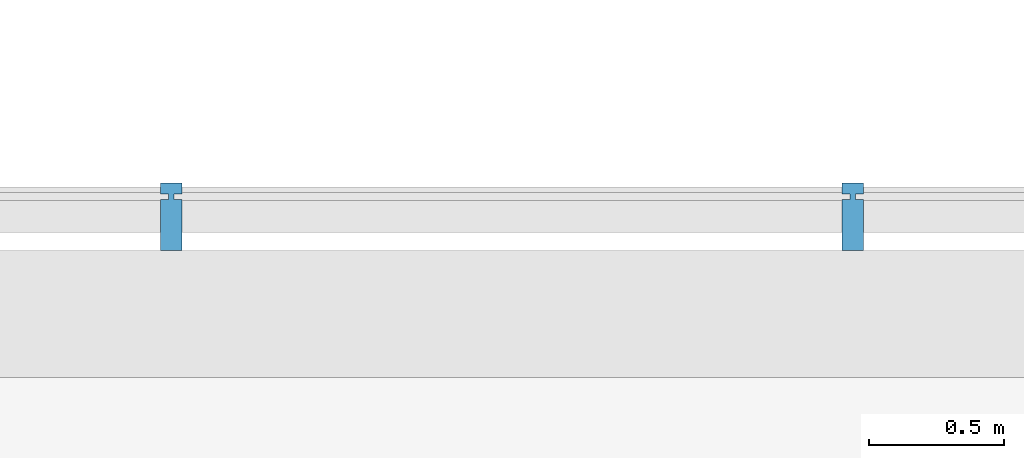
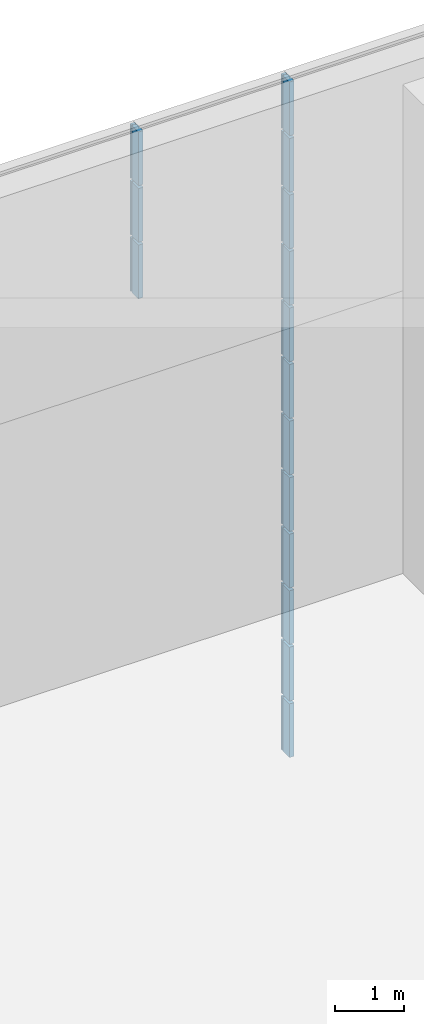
# One storey, part 100 of 105: 15 building element parts, 4 elements without a shape of their own.
"""IFC4 building model written with IfcOpenShell, lengths in millimetres."""

from ifc_helpers import new_model, entity, si_unit, converted_unit, derived_unit, direction, frame, origin_with_axes, place, context, subcontext, project, spatial, triangles, material, element, aggregate, save


model = new_model("IFC4")

# Units and contexts
model_context = context("Model", 3, precision=1e-05, world=origin_with_axes(), true_north=direction((0.0, 1.0)))
body_context = subcontext(model_context, "Body", "Model", "MODEL_VIEW")
ifc_project = project(units=[si_unit("LENGTHUNIT", "METRE", prefix="MILLI"), si_unit("AREAUNIT", "SQUARE_METRE"), si_unit("VOLUMEUNIT", "CUBIC_METRE"), converted_unit("PLANEANGLEUNIT", "DEGREE", entity("IfcLengthMeasure", 0.017453), si_unit("PLANEANGLEUNIT", "RADIAN"), dimensions=[0, 0, 0, 0, 0, 0, 0]), si_unit("SOLIDANGLEUNIT", "STERADIAN"), si_unit("MASSUNIT", "GRAM"), si_unit("TIMEUNIT", "SECOND"), si_unit("THERMODYNAMICTEMPERATUREUNIT", "DEGREE_CELSIUS"), si_unit("LUMINOUSINTENSITYUNIT", "LUMEN"), si_unit("POWERUNIT", "WATT"), derived_unit("THERMALTRANSMITTANCEUNIT", [(si_unit("POWERUNIT", "WATT"), 1), (si_unit("THERMODYNAMICTEMPERATUREUNIT", "KELVIN"), -1), (si_unit("AREAUNIT", "SQUARE_METRE"), -1)])], contexts=[model_context])

# Site, building, storey
site_placement = place(None, origin_with_axes())
site = spatial("IfcSite", under=ifc_project, at=site_placement, Name="Default Site", CompositionType="ELEMENT")
building_placement = place(site_placement, origin_with_axes())
building = spatial("IfcBuilding", under=site, at=building_placement, Name="Default Building", CompositionType="ELEMENT")
storey_placement = place(building_placement, origin_with_axes())
storey = spatial("IfcBuildingStorey", under=building, at=storey_placement, Name="OG - Story", CompositionType="ELEMENT", Elevation=0.0)

# Curtain wall, building element parts
curtain_wall_1_placement = place(storey_placement, origin_with_axes())
curtain_wall_1 = element("IfcCurtainWall", 1, at=curtain_wall_1_placement, inside=storey, Name="Fassade-004", PredefinedType="NOTDEFINED")
ifc_material = material(Name="Blech")
building_element_part_1_placement = place(curtain_wall_1_placement, frame((33014.549222, -4389.262838, 0.0), z_axis=(0.0, 0.0, 1.0), x_axis=(1.0, 0.0, 0.0)))
building_element_part_1 = element("IfcBuildingElementPart", 2, at=building_element_part_1_placement, material=ifc_material, Name="Blech", PredefinedType="NOTDEFINED", context=body_context, shape_type="Tessellation", body=[
    triangles([(44250.526, -9.999, 975.0), (44250.526, -199.999, 975.0), (44220.526, -9.999, 975.0), (44200.526, -9.999, 975.0), (44220.526, 10.0, 975.0), (44250.526, 50.0, 975.0), (44250.526, 10.0, 975.0), (44170.526, -199.999, 975.0), (44170.526, -9.999, 975.0), (44200.526, 10.0, 975.0), (44170.526, 10.0, 975.0), (44170.526, 50.0, 975.0), (44220.526, -9.999, 25.0), (44220.526, 10.0, 25.0), (44250.526, 10.0, 25.0), (44250.526, 50.0, 25.0), (44170.526, 50.0, 25.0), (44170.526, 10.0, 25.0), (44200.526, 10.0, 25.0), (44200.526, -9.999, 25.0), (44170.526, -9.999, 25.0), (44170.526, -199.999, 25.0), (44250.526, -199.999, 25.0), (44250.526, -9.999, 25.0)], [[1, 2, 3], [3, 2, 4], [3, 4, 5], [5, 4, 6], [5, 6, 7], [8, 9, 4], [8, 4, 2], [6, 4, 10], [6, 10, 11], [6, 11, 12], [3, 13, 14], [3, 14, 5], [5, 14, 15], [5, 15, 7], [15, 16, 6], [15, 6, 7], [12, 6, 16], [12, 16, 17], [18, 11, 12], [18, 12, 17], [11, 18, 19], [11, 19, 10], [4, 10, 19], [4, 19, 20], [9, 4, 20], [9, 20, 21], [9, 21, 22], [9, 22, 8], [2, 8, 22], [2, 22, 23], [1, 2, 23], [1, 23, 24], [1, 24, 13], [1, 13, 3], [15, 16, 14], [14, 16, 19], [14, 19, 13], [13, 19, 23], [13, 23, 24], [17, 18, 19], [17, 19, 16], [23, 19, 20], [23, 20, 21], [23, 21, 22]], closed=False),
])
building_element_part_2_placement = place(curtain_wall_1_placement, frame((33014.549222, -4389.262838, 0.0), z_axis=(0.0, 0.0, 1.0), x_axis=(1.0, 0.0, 0.0)))
building_element_part_2 = element("IfcBuildingElementPart", 3, at=building_element_part_2_placement, material=ifc_material, Name="Blech", PredefinedType="NOTDEFINED", context=body_context, shape_type="Tessellation", body=[
    triangles([(44250.526, -9.999, 1975.0), (44250.526, -199.999, 1975.0), (44220.526, -9.999, 1975.0), (44200.526, -9.999, 1975.0), (44220.526, 10.0, 1975.0), (44250.526, 50.0, 1975.0), (44250.526, 10.0, 1975.0), (44170.526, -199.999, 1975.0), (44170.526, -9.999, 1975.0), (44200.526, 10.0, 1975.0), (44170.526, 10.0, 1975.0), (44170.526, 50.0, 1975.0), (44220.526, -9.999, 1025.0), (44220.526, 10.0, 1025.0), (44250.526, 10.0, 1025.0), (44250.526, 50.0, 1025.0), (44170.526, 50.0, 1025.0), (44170.526, 10.0, 1025.0), (44200.526, 10.0, 1025.0), (44200.526, -9.999, 1025.0), (44170.526, -9.999, 1025.0), (44170.526, -199.999, 1025.0), (44250.526, -199.999, 1025.0), (44250.526, -9.999, 1025.0)], [[1, 2, 3], [3, 2, 4], [3, 4, 5], [5, 4, 6], [5, 6, 7], [8, 9, 4], [8, 4, 2], [6, 4, 10], [6, 10, 11], [6, 11, 12], [3, 13, 14], [3, 14, 5], [5, 14, 15], [5, 15, 7], [15, 16, 6], [15, 6, 7], [12, 6, 16], [12, 16, 17], [18, 11, 12], [18, 12, 17], [11, 18, 19], [11, 19, 10], [4, 10, 19], [4, 19, 20], [9, 4, 20], [9, 20, 21], [9, 21, 22], [9, 22, 8], [2, 8, 22], [2, 22, 23], [1, 2, 23], [1, 23, 24], [1, 24, 13], [1, 13, 3], [15, 16, 14], [14, 16, 19], [14, 19, 13], [13, 19, 23], [13, 23, 24], [17, 18, 19], [17, 19, 16], [23, 19, 20], [23, 20, 21], [23, 21, 22]], closed=False),
])
building_element_part_3_placement = place(curtain_wall_1_placement, frame((33014.549222, -4389.262838, 0.0), z_axis=(0.0, 0.0, 1.0), x_axis=(1.0, 0.0, 0.0)))
building_element_part_3 = element("IfcBuildingElementPart", 4, at=building_element_part_3_placement, material=ifc_material, Name="Blech", PredefinedType="NOTDEFINED", context=body_context, shape_type="Tessellation", body=[
    triangles([(44250.526, -9.999, 2975.0), (44250.526, -199.999, 2975.0), (44220.526, -9.999, 2975.0), (44200.526, -9.999, 2975.0), (44220.526, 10.0, 2975.0), (44250.526, 50.0, 2975.0), (44250.526, 10.0, 2975.0), (44170.526, -199.999, 2975.0), (44170.526, -9.999, 2975.0), (44200.526, 10.0, 2975.0), (44170.526, 10.0, 2975.0), (44170.526, 50.0, 2975.0), (44220.526, -9.999, 2025.0), (44220.526, 10.0, 2025.0), (44250.526, 10.0, 2025.0), (44250.526, 50.0, 2025.0), (44170.526, 50.0, 2025.0), (44170.526, 10.0, 2025.0), (44200.526, 10.0, 2025.0), (44200.526, -9.999, 2025.0), (44170.526, -9.999, 2025.0), (44170.526, -199.999, 2025.0), (44250.526, -199.999, 2025.0), (44250.526, -9.999, 2025.0)], [[1, 2, 3], [3, 2, 4], [3, 4, 5], [5, 4, 6], [5, 6, 7], [8, 9, 4], [8, 4, 2], [6, 4, 10], [6, 10, 11], [6, 11, 12], [3, 13, 14], [3, 14, 5], [5, 14, 15], [5, 15, 7], [15, 16, 6], [15, 6, 7], [12, 6, 16], [12, 16, 17], [18, 11, 12], [18, 12, 17], [11, 18, 19], [11, 19, 10], [4, 10, 19], [4, 19, 20], [9, 4, 20], [9, 20, 21], [9, 21, 22], [9, 22, 8], [2, 8, 22], [2, 22, 23], [1, 2, 23], [1, 23, 24], [1, 24, 13], [1, 13, 3], [15, 16, 14], [14, 16, 19], [14, 19, 13], [13, 19, 23], [13, 23, 24], [17, 18, 19], [17, 19, 16], [23, 19, 20], [23, 20, 21], [23, 21, 22]], closed=False),
])
aggregate(curtain_wall_1, [building_element_part_1, building_element_part_2, building_element_part_3])

curtain_wall_2_placement = place(storey_placement, origin_with_axes())
curtain_wall_2 = element("IfcCurtainWall", 5, at=curtain_wall_2_placement, inside=storey, Name="Fassade-004", PredefinedType="NOTDEFINED")
building_element_part_4_placement = place(curtain_wall_2_placement, frame((33014.549222, -4389.262838, 3000.0), z_axis=(0.0, 0.0, 1.0), x_axis=(1.0, 0.0, 0.0)))
building_element_part_4 = element("IfcBuildingElementPart", 6, at=building_element_part_4_placement, material=ifc_material, Name="Blech", PredefinedType="NOTDEFINED", context=body_context, shape_type="Tessellation", body=[
    triangles([(44250.526, -9.999, 975.0), (44250.526, -199.999, 975.0), (44220.526, -9.999, 975.0), (44200.526, -9.999, 975.0), (44220.526, 10.0, 975.0), (44250.526, 50.0, 975.0), (44250.526, 10.0, 975.0), (44170.526, -199.999, 975.0), (44170.526, -9.999, 975.0), (44200.526, 10.0, 975.0), (44170.526, 10.0, 975.0), (44170.526, 50.0, 975.0), (44220.526, -9.999, 25.0), (44220.526, 10.0, 25.0), (44250.526, 10.0, 25.0), (44250.526, 50.0, 25.0), (44170.526, 50.0, 25.0), (44170.526, 10.0, 25.0), (44200.526, 10.0, 25.0), (44200.526, -9.999, 25.0), (44170.526, -9.999, 25.0), (44170.526, -199.999, 25.0), (44250.526, -199.999, 25.0), (44250.526, -9.999, 25.0)], [[1, 2, 3], [3, 2, 4], [3, 4, 5], [5, 4, 6], [5, 6, 7], [8, 9, 4], [8, 4, 2], [6, 4, 10], [6, 10, 11], [6, 11, 12], [3, 13, 14], [3, 14, 5], [5, 14, 15], [5, 15, 7], [15, 16, 6], [15, 6, 7], [12, 6, 16], [12, 16, 17], [18, 11, 12], [18, 12, 17], [11, 18, 19], [11, 19, 10], [4, 10, 19], [4, 19, 20], [9, 4, 20], [9, 20, 21], [9, 21, 22], [9, 22, 8], [2, 8, 22], [2, 22, 23], [1, 2, 23], [1, 23, 24], [1, 24, 13], [1, 13, 3], [15, 16, 14], [14, 16, 19], [14, 19, 13], [13, 19, 23], [13, 23, 24], [17, 18, 19], [17, 19, 16], [23, 19, 20], [23, 20, 21], [23, 21, 22]], closed=False),
])
building_element_part_5_placement = place(curtain_wall_2_placement, frame((33014.549222, -4389.262838, 3000.0), z_axis=(0.0, 0.0, 1.0), x_axis=(1.0, 0.0, 0.0)))
building_element_part_5 = element("IfcBuildingElementPart", 7, at=building_element_part_5_placement, material=ifc_material, Name="Blech", PredefinedType="NOTDEFINED", context=body_context, shape_type="Tessellation", body=[
    triangles([(44250.526, -9.999, 1975.0), (44250.526, -199.999, 1975.0), (44220.526, -9.999, 1975.0), (44200.526, -9.999, 1975.0), (44220.526, 10.0, 1975.0), (44250.526, 50.0, 1975.0), (44250.526, 10.0, 1975.0), (44170.526, -199.999, 1975.0), (44170.526, -9.999, 1975.0), (44200.526, 10.0, 1975.0), (44170.526, 10.0, 1975.0), (44170.526, 50.0, 1975.0), (44220.526, -9.999, 1025.0), (44220.526, 10.0, 1025.0), (44250.526, 10.0, 1025.0), (44250.526, 50.0, 1025.0), (44170.526, 50.0, 1025.0), (44170.526, 10.0, 1025.0), (44200.526, 10.0, 1025.0), (44200.526, -9.999, 1025.0), (44170.526, -9.999, 1025.0), (44170.526, -199.999, 1025.0), (44250.526, -199.999, 1025.0), (44250.526, -9.999, 1025.0)], [[1, 2, 3], [3, 2, 4], [3, 4, 5], [5, 4, 6], [5, 6, 7], [8, 9, 4], [8, 4, 2], [6, 4, 10], [6, 10, 11], [6, 11, 12], [3, 13, 14], [3, 14, 5], [5, 14, 15], [5, 15, 7], [15, 16, 6], [15, 6, 7], [12, 6, 16], [12, 16, 17], [18, 11, 12], [18, 12, 17], [11, 18, 19], [11, 19, 10], [4, 10, 19], [4, 19, 20], [9, 4, 20], [9, 20, 21], [9, 21, 22], [9, 22, 8], [2, 8, 22], [2, 22, 23], [1, 2, 23], [1, 23, 24], [1, 24, 13], [1, 13, 3], [15, 16, 14], [14, 16, 19], [14, 19, 13], [13, 19, 23], [13, 23, 24], [17, 18, 19], [17, 19, 16], [23, 19, 20], [23, 20, 21], [23, 21, 22]], closed=False),
])
building_element_part_6_placement = place(curtain_wall_2_placement, frame((33014.549222, -4389.262838, 3000.0), z_axis=(0.0, 0.0, 1.0), x_axis=(1.0, 0.0, 0.0)))
building_element_part_6 = element("IfcBuildingElementPart", 8, at=building_element_part_6_placement, material=ifc_material, Name="Blech", PredefinedType="NOTDEFINED", context=body_context, shape_type="Tessellation", body=[
    triangles([(44250.526, -9.999, 2975.0), (44250.526, -199.999, 2975.0), (44220.526, -9.999, 2975.0), (44200.526, -9.999, 2975.0), (44220.526, 10.0, 2975.0), (44250.526, 50.0, 2975.0), (44250.526, 10.0, 2975.0), (44170.526, -199.999, 2975.0), (44170.526, -9.999, 2975.0), (44200.526, 10.0, 2975.0), (44170.526, 10.0, 2975.0), (44170.526, 50.0, 2975.0), (44220.526, -9.999, 2025.0), (44220.526, 10.0, 2025.0), (44250.526, 10.0, 2025.0), (44250.526, 50.0, 2025.0), (44170.526, 50.0, 2025.0), (44170.526, 10.0, 2025.0), (44200.526, 10.0, 2025.0), (44200.526, -9.999, 2025.0), (44170.526, -9.999, 2025.0), (44170.526, -199.999, 2025.0), (44250.526, -199.999, 2025.0), (44250.526, -9.999, 2025.0)], [[1, 2, 3], [3, 2, 4], [3, 4, 5], [5, 4, 6], [5, 6, 7], [8, 9, 4], [8, 4, 2], [6, 4, 10], [6, 10, 11], [6, 11, 12], [3, 13, 14], [3, 14, 5], [5, 14, 15], [5, 15, 7], [15, 16, 6], [15, 6, 7], [12, 6, 16], [12, 16, 17], [18, 11, 12], [18, 12, 17], [11, 18, 19], [11, 19, 10], [4, 10, 19], [4, 19, 20], [9, 4, 20], [9, 20, 21], [9, 21, 22], [9, 22, 8], [2, 8, 22], [2, 22, 23], [1, 2, 23], [1, 23, 24], [1, 24, 13], [1, 13, 3], [15, 16, 14], [14, 16, 19], [14, 19, 13], [13, 19, 23], [13, 23, 24], [17, 18, 19], [17, 19, 16], [23, 19, 20], [23, 20, 21], [23, 21, 22]], closed=False),
])
aggregate(curtain_wall_2, [building_element_part_4, building_element_part_5, building_element_part_6])

curtain_wall_3_placement = place(storey_placement, origin_with_axes())
curtain_wall_3 = element("IfcCurtainWall", 9, at=curtain_wall_3_placement, inside=storey, Name="Fassade-004", PredefinedType="NOTDEFINED")
building_element_part_7_placement = place(curtain_wall_3_placement, frame((33014.549222, -4389.262838, 6000.0), z_axis=(0.0, 0.0, 1.0), x_axis=(1.0, 0.0, 0.0)))
building_element_part_7 = element("IfcBuildingElementPart", 10, at=building_element_part_7_placement, material=ifc_material, Name="Blech", PredefinedType="NOTDEFINED", context=body_context, shape_type="Tessellation", body=[
    triangles([(44250.526, -9.999, 975.0), (44250.526, -199.999, 975.0), (44220.526, -9.999, 975.0), (44200.526, -9.999, 975.0), (44220.526, 10.0, 975.0), (44250.526, 50.0, 975.0), (44250.526, 10.0, 975.0), (44170.526, -199.999, 975.0), (44170.526, -9.999, 975.0), (44200.526, 10.0, 975.0), (44170.526, 10.0, 975.0), (44170.526, 50.0, 975.0), (44220.526, -9.999, 25.0), (44220.526, 10.0, 25.0), (44250.526, 10.0, 25.0), (44250.526, 50.0, 25.0), (44170.526, 50.0, 25.0), (44170.526, 10.0, 25.0), (44200.526, 10.0, 25.0), (44200.526, -9.999, 25.0), (44170.526, -9.999, 25.0), (44170.526, -199.999, 25.0), (44250.526, -199.999, 25.0), (44250.526, -9.999, 25.0)], [[1, 2, 3], [3, 2, 4], [3, 4, 5], [5, 4, 6], [5, 6, 7], [8, 9, 4], [8, 4, 2], [6, 4, 10], [6, 10, 11], [6, 11, 12], [3, 13, 14], [3, 14, 5], [5, 14, 15], [5, 15, 7], [15, 16, 6], [15, 6, 7], [12, 6, 16], [12, 16, 17], [18, 11, 12], [18, 12, 17], [11, 18, 19], [11, 19, 10], [4, 10, 19], [4, 19, 20], [9, 4, 20], [9, 20, 21], [9, 21, 22], [9, 22, 8], [2, 8, 22], [2, 22, 23], [1, 2, 23], [1, 23, 24], [1, 24, 13], [1, 13, 3], [15, 16, 14], [14, 16, 19], [14, 19, 13], [13, 19, 23], [13, 23, 24], [17, 18, 19], [17, 19, 16], [23, 19, 20], [23, 20, 21], [23, 21, 22]], closed=False),
])
building_element_part_8_placement = place(curtain_wall_3_placement, frame((33014.549222, -4389.262838, 6000.0), z_axis=(0.0, 0.0, 1.0), x_axis=(1.0, 0.0, 0.0)))
building_element_part_8 = element("IfcBuildingElementPart", 11, at=building_element_part_8_placement, material=ifc_material, Name="Blech", PredefinedType="NOTDEFINED", context=body_context, shape_type="Tessellation", body=[
    triangles([(44250.526, -9.999, 1975.0), (44250.526, -199.999, 1975.0), (44220.526, -9.999, 1975.0), (44200.526, -9.999, 1975.0), (44220.526, 10.0, 1975.0), (44250.526, 50.0, 1975.0), (44250.526, 10.0, 1975.0), (44170.526, -199.999, 1975.0), (44170.526, -9.999, 1975.0), (44200.526, 10.0, 1975.0), (44170.526, 10.0, 1975.0), (44170.526, 50.0, 1975.0), (44220.526, -9.999, 1025.0), (44220.526, 10.0, 1025.0), (44250.526, 10.0, 1025.0), (44250.526, 50.0, 1025.0), (44170.526, 50.0, 1025.0), (44170.526, 10.0, 1025.0), (44200.526, 10.0, 1025.0), (44200.526, -9.999, 1025.0), (44170.526, -9.999, 1025.0), (44170.526, -199.999, 1025.0), (44250.526, -199.999, 1025.0), (44250.526, -9.999, 1025.0)], [[1, 2, 3], [3, 2, 4], [3, 4, 5], [5, 4, 6], [5, 6, 7], [8, 9, 4], [8, 4, 2], [6, 4, 10], [6, 10, 11], [6, 11, 12], [3, 13, 14], [3, 14, 5], [5, 14, 15], [5, 15, 7], [15, 16, 6], [15, 6, 7], [12, 6, 16], [12, 16, 17], [18, 11, 12], [18, 12, 17], [11, 18, 19], [11, 19, 10], [4, 10, 19], [4, 19, 20], [9, 4, 20], [9, 20, 21], [9, 21, 22], [9, 22, 8], [2, 8, 22], [2, 22, 23], [1, 2, 23], [1, 23, 24], [1, 24, 13], [1, 13, 3], [15, 16, 14], [14, 16, 19], [14, 19, 13], [13, 19, 23], [13, 23, 24], [17, 18, 19], [17, 19, 16], [23, 19, 20], [23, 20, 21], [23, 21, 22]], closed=False),
])
building_element_part_9_placement = place(curtain_wall_3_placement, frame((33014.549222, -4389.262838, 6000.0), z_axis=(0.0, 0.0, 1.0), x_axis=(1.0, 0.0, 0.0)))
building_element_part_9 = element("IfcBuildingElementPart", 12, at=building_element_part_9_placement, material=ifc_material, Name="Blech", PredefinedType="NOTDEFINED", context=body_context, shape_type="Tessellation", body=[
    triangles([(44250.526, -9.999, 2975.0), (44250.526, -199.999, 2975.0), (44220.526, -9.999, 2975.0), (44200.526, -9.999, 2975.0), (44220.526, 10.0, 2975.0), (44250.526, 50.0, 2975.0), (44250.526, 10.0, 2975.0), (44170.526, -199.999, 2975.0), (44170.526, -9.999, 2975.0), (44200.526, 10.0, 2975.0), (44170.526, 10.0, 2975.0), (44170.526, 50.0, 2975.0), (44220.526, -9.999, 2025.0), (44220.526, 10.0, 2025.0), (44250.526, 10.0, 2025.0), (44250.526, 50.0, 2025.0), (44170.526, 50.0, 2025.0), (44170.526, 10.0, 2025.0), (44200.526, 10.0, 2025.0), (44200.526, -9.999, 2025.0), (44170.526, -9.999, 2025.0), (44170.526, -199.999, 2025.0), (44250.526, -199.999, 2025.0), (44250.526, -9.999, 2025.0)], [[1, 2, 3], [3, 2, 4], [3, 4, 5], [5, 4, 6], [5, 6, 7], [8, 9, 4], [8, 4, 2], [6, 4, 10], [6, 10, 11], [6, 11, 12], [3, 13, 14], [3, 14, 5], [5, 14, 15], [5, 15, 7], [15, 16, 6], [15, 6, 7], [12, 6, 16], [12, 16, 17], [18, 11, 12], [18, 12, 17], [11, 18, 19], [11, 19, 10], [4, 10, 19], [4, 19, 20], [9, 4, 20], [9, 20, 21], [9, 21, 22], [9, 22, 8], [2, 8, 22], [2, 22, 23], [1, 2, 23], [1, 23, 24], [1, 24, 13], [1, 13, 3], [15, 16, 14], [14, 16, 19], [14, 19, 13], [13, 19, 23], [13, 23, 24], [17, 18, 19], [17, 19, 16], [23, 19, 20], [23, 20, 21], [23, 21, 22]], closed=False),
])
aggregate(curtain_wall_3, [building_element_part_7, building_element_part_8, building_element_part_9])

curtain_wall_4_placement = place(storey_placement, origin_with_axes())
curtain_wall_4 = element("IfcCurtainWall", 13, at=curtain_wall_4_placement, inside=storey, Name="Fassade-004", PredefinedType="NOTDEFINED")
building_element_part_10_placement = place(curtain_wall_4_placement, frame((33014.549222, -4389.262838, 9000.0), z_axis=(0.0, 0.0, 1.0), x_axis=(1.0, 0.0, 0.0)))
building_element_part_10 = element("IfcBuildingElementPart", 14, at=building_element_part_10_placement, material=ifc_material, Name="Blech", PredefinedType="NOTDEFINED", context=body_context, shape_type="Tessellation", body=[
    triangles([(41724.211, -9.999, 975.0), (41724.211, -199.999, 975.0), (41694.211, -9.999, 975.0), (41674.211, -9.999, 975.0), (41694.211, 10.0, 975.0), (41724.211, 50.0, 975.0), (41724.211, 10.0, 975.0), (41644.211, -199.999, 975.0), (41644.211, -9.999, 975.0), (41674.211, 10.0, 975.0), (41644.211, 10.0, 975.0), (41644.211, 50.0, 975.0), (41694.211, -9.999, 25.0), (41694.211, 10.0, 25.0), (41724.211, 10.0, 25.0), (41724.211, 50.0, 25.0), (41644.211, 50.0, 25.0), (41644.211, 10.0, 25.0), (41674.211, 10.0, 25.0), (41674.211, -9.999, 25.0), (41644.211, -9.999, 25.0), (41644.211, -199.999, 25.0), (41724.211, -199.999, 25.0), (41724.211, -9.999, 25.0)], [[1, 2, 3], [3, 2, 4], [3, 4, 5], [5, 4, 6], [5, 6, 7], [8, 9, 4], [8, 4, 2], [6, 4, 10], [6, 10, 11], [6, 11, 12], [3, 13, 14], [3, 14, 5], [5, 14, 15], [5, 15, 7], [15, 16, 6], [15, 6, 7], [12, 6, 16], [12, 16, 17], [18, 11, 12], [18, 12, 17], [11, 18, 19], [11, 19, 10], [4, 10, 19], [4, 19, 20], [9, 4, 20], [9, 20, 21], [9, 21, 22], [9, 22, 8], [2, 8, 22], [2, 22, 23], [1, 2, 23], [1, 23, 24], [1, 24, 13], [1, 13, 3], [15, 16, 14], [14, 16, 19], [14, 19, 13], [13, 19, 23], [13, 23, 24], [17, 18, 19], [17, 19, 16], [23, 19, 20], [23, 20, 21], [23, 21, 22]], closed=False),
])
building_element_part_11_placement = place(curtain_wall_4_placement, frame((33014.549222, -4389.262838, 9000.0), z_axis=(0.0, 0.0, 1.0), x_axis=(1.0, 0.0, 0.0)))
building_element_part_11 = element("IfcBuildingElementPart", 15, at=building_element_part_11_placement, material=ifc_material, Name="Blech", PredefinedType="NOTDEFINED", context=body_context, shape_type="Tessellation", body=[
    triangles([(44250.526, -9.999, 975.0), (44250.526, -199.999, 975.0), (44220.526, -9.999, 975.0), (44200.526, -9.999, 975.0), (44220.526, 10.0, 975.0), (44250.526, 50.0, 975.0), (44250.526, 10.0, 975.0), (44170.526, -199.999, 975.0), (44170.526, -9.999, 975.0), (44200.526, 10.0, 975.0), (44170.526, 10.0, 975.0), (44170.526, 50.0, 975.0), (44220.526, -9.999, 25.0), (44220.526, 10.0, 25.0), (44250.526, 10.0, 25.0), (44250.526, 50.0, 25.0), (44170.526, 50.0, 25.0), (44170.526, 10.0, 25.0), (44200.526, 10.0, 25.0), (44200.526, -9.999, 25.0), (44170.526, -9.999, 25.0), (44170.526, -199.999, 25.0), (44250.526, -199.999, 25.0), (44250.526, -9.999, 25.0)], [[1, 2, 3], [3, 2, 4], [3, 4, 5], [5, 4, 6], [5, 6, 7], [8, 9, 4], [8, 4, 2], [6, 4, 10], [6, 10, 11], [6, 11, 12], [3, 13, 14], [3, 14, 5], [5, 14, 15], [5, 15, 7], [15, 16, 6], [15, 6, 7], [12, 6, 16], [12, 16, 17], [18, 11, 12], [18, 12, 17], [11, 18, 19], [11, 19, 10], [4, 10, 19], [4, 19, 20], [9, 4, 20], [9, 20, 21], [9, 21, 22], [9, 22, 8], [2, 8, 22], [2, 22, 23], [1, 2, 23], [1, 23, 24], [1, 24, 13], [1, 13, 3], [15, 16, 14], [14, 16, 19], [14, 19, 13], [13, 19, 23], [13, 23, 24], [17, 18, 19], [17, 19, 16], [23, 19, 20], [23, 20, 21], [23, 21, 22]], closed=False),
])
building_element_part_12_placement = place(curtain_wall_4_placement, frame((33014.549222, -4389.262838, 9000.0), z_axis=(0.0, 0.0, 1.0), x_axis=(1.0, 0.0, 0.0)))
building_element_part_12 = element("IfcBuildingElementPart", 16, at=building_element_part_12_placement, material=ifc_material, Name="Blech", PredefinedType="NOTDEFINED", context=body_context, shape_type="Tessellation", body=[
    triangles([(41724.211, -9.999, 1975.0), (41724.211, -199.999, 1975.0), (41694.211, -9.999, 1975.0), (41674.211, -9.999, 1975.0), (41694.211, 10.0, 1975.0), (41724.211, 50.0, 1975.0), (41724.211, 10.0, 1975.0), (41644.211, -199.999, 1975.0), (41644.211, -9.999, 1975.0), (41674.211, 10.0, 1975.0), (41644.211, 10.0, 1975.0), (41644.211, 50.0, 1975.0), (41694.211, -9.999, 1025.0), (41694.211, 10.0, 1025.0), (41724.211, 10.0, 1025.0), (41724.211, 50.0, 1025.0), (41644.211, 50.0, 1025.0), (41644.211, 10.0, 1025.0), (41674.211, 10.0, 1025.0), (41674.211, -9.999, 1025.0), (41644.211, -9.999, 1025.0), (41644.211, -199.999, 1025.0), (41724.211, -199.999, 1025.0), (41724.211, -9.999, 1025.0)], [[1, 2, 3], [3, 2, 4], [3, 4, 5], [5, 4, 6], [5, 6, 7], [8, 9, 4], [8, 4, 2], [6, 4, 10], [6, 10, 11], [6, 11, 12], [3, 13, 14], [3, 14, 5], [5, 14, 15], [5, 15, 7], [15, 16, 6], [15, 6, 7], [12, 6, 16], [12, 16, 17], [18, 11, 12], [18, 12, 17], [11, 18, 19], [11, 19, 10], [4, 10, 19], [4, 19, 20], [9, 4, 20], [9, 20, 21], [9, 21, 22], [9, 22, 8], [2, 8, 22], [2, 22, 23], [1, 2, 23], [1, 23, 24], [1, 24, 13], [1, 13, 3], [15, 16, 14], [14, 16, 19], [14, 19, 13], [13, 19, 23], [13, 23, 24], [17, 18, 19], [17, 19, 16], [23, 19, 20], [23, 20, 21], [23, 21, 22]], closed=False),
])
building_element_part_13_placement = place(curtain_wall_4_placement, frame((33014.549222, -4389.262838, 9000.0), z_axis=(0.0, 0.0, 1.0), x_axis=(1.0, 0.0, 0.0)))
building_element_part_13 = element("IfcBuildingElementPart", 17, at=building_element_part_13_placement, material=ifc_material, Name="Blech", PredefinedType="NOTDEFINED", context=body_context, shape_type="Tessellation", body=[
    triangles([(44250.526, -9.999, 1975.0), (44250.526, -199.999, 1975.0), (44220.526, -9.999, 1975.0), (44200.526, -9.999, 1975.0), (44220.526, 10.0, 1975.0), (44250.526, 50.0, 1975.0), (44250.526, 10.0, 1975.0), (44170.526, -199.999, 1975.0), (44170.526, -9.999, 1975.0), (44200.526, 10.0, 1975.0), (44170.526, 10.0, 1975.0), (44170.526, 50.0, 1975.0), (44220.526, -9.999, 1025.0), (44220.526, 10.0, 1025.0), (44250.526, 10.0, 1025.0), (44250.526, 50.0, 1025.0), (44170.526, 50.0, 1025.0), (44170.526, 10.0, 1025.0), (44200.526, 10.0, 1025.0), (44200.526, -9.999, 1025.0), (44170.526, -9.999, 1025.0), (44170.526, -199.999, 1025.0), (44250.526, -199.999, 1025.0), (44250.526, -9.999, 1025.0)], [[1, 2, 3], [3, 2, 4], [3, 4, 5], [5, 4, 6], [5, 6, 7], [8, 9, 4], [8, 4, 2], [6, 4, 10], [6, 10, 11], [6, 11, 12], [3, 13, 14], [3, 14, 5], [5, 14, 15], [5, 15, 7], [15, 16, 6], [15, 6, 7], [12, 6, 16], [12, 16, 17], [18, 11, 12], [18, 12, 17], [11, 18, 19], [11, 19, 10], [4, 10, 19], [4, 19, 20], [9, 4, 20], [9, 20, 21], [9, 21, 22], [9, 22, 8], [2, 8, 22], [2, 22, 23], [1, 2, 23], [1, 23, 24], [1, 24, 13], [1, 13, 3], [15, 16, 14], [14, 16, 19], [14, 19, 13], [13, 19, 23], [13, 23, 24], [17, 18, 19], [17, 19, 16], [23, 19, 20], [23, 20, 21], [23, 21, 22]], closed=False),
])
building_element_part_14_placement = place(curtain_wall_4_placement, frame((33014.549222, -4389.262838, 9000.0), z_axis=(0.0, 0.0, 1.0), x_axis=(1.0, 0.0, 0.0)))
building_element_part_14 = element("IfcBuildingElementPart", 18, at=building_element_part_14_placement, material=ifc_material, Name="Blech", PredefinedType="NOTDEFINED", context=body_context, shape_type="Tessellation", body=[
    triangles([(41724.211, -9.999, 2975.0), (41724.211, -199.999, 2975.0), (41694.211, -9.999, 2975.0), (41674.211, -9.999, 2975.0), (41694.211, 10.0, 2975.0), (41724.211, 50.0, 2975.0), (41724.211, 10.0, 2975.0), (41644.211, -199.999, 2975.0), (41644.211, -9.999, 2975.0), (41674.211, 10.0, 2975.0), (41644.211, 10.0, 2975.0), (41644.211, 50.0, 2975.0), (41694.211, -9.999, 2025.0), (41694.211, 10.0, 2025.0), (41724.211, 10.0, 2025.0), (41724.211, 50.0, 2025.0), (41644.211, 50.0, 2025.0), (41644.211, 10.0, 2025.0), (41674.211, 10.0, 2025.0), (41674.211, -9.999, 2025.0), (41644.211, -9.999, 2025.0), (41644.211, -199.999, 2025.0), (41724.211, -199.999, 2025.0), (41724.211, -9.999, 2025.0)], [[1, 2, 3], [3, 2, 4], [3, 4, 5], [5, 4, 6], [5, 6, 7], [8, 9, 4], [8, 4, 2], [6, 4, 10], [6, 10, 11], [6, 11, 12], [3, 13, 14], [3, 14, 5], [5, 14, 15], [5, 15, 7], [15, 16, 6], [15, 6, 7], [12, 6, 16], [12, 16, 17], [18, 11, 12], [18, 12, 17], [11, 18, 19], [11, 19, 10], [4, 10, 19], [4, 19, 20], [9, 4, 20], [9, 20, 21], [9, 21, 22], [9, 22, 8], [2, 8, 22], [2, 22, 23], [1, 2, 23], [1, 23, 24], [1, 24, 13], [1, 13, 3], [15, 16, 14], [14, 16, 19], [14, 19, 13], [13, 19, 23], [13, 23, 24], [17, 18, 19], [17, 19, 16], [23, 19, 20], [23, 20, 21], [23, 21, 22]], closed=False),
])
building_element_part_15_placement = place(curtain_wall_4_placement, frame((33014.549222, -4389.262838, 9000.0), z_axis=(0.0, 0.0, 1.0), x_axis=(1.0, 0.0, 0.0)))
building_element_part_15 = element("IfcBuildingElementPart", 19, at=building_element_part_15_placement, material=ifc_material, Name="Blech", PredefinedType="NOTDEFINED", context=body_context, shape_type="Tessellation", body=[
    triangles([(44250.526, -9.999, 2975.0), (44250.526, -199.999, 2975.0), (44220.526, -9.999, 2975.0), (44200.526, -9.999, 2975.0), (44220.526, 10.0, 2975.0), (44250.526, 50.0, 2975.0), (44250.526, 10.0, 2975.0), (44170.526, -199.999, 2975.0), (44170.526, -9.999, 2975.0), (44200.526, 10.0, 2975.0), (44170.526, 10.0, 2975.0), (44170.526, 50.0, 2975.0), (44220.526, -9.999, 2025.0), (44220.526, 10.0, 2025.0), (44250.526, 10.0, 2025.0), (44250.526, 50.0, 2025.0), (44170.526, 50.0, 2025.0), (44170.526, 10.0, 2025.0), (44200.526, 10.0, 2025.0), (44200.526, -9.999, 2025.0), (44170.526, -9.999, 2025.0), (44170.526, -199.999, 2025.0), (44250.526, -199.999, 2025.0), (44250.526, -9.999, 2025.0)], [[1, 2, 3], [3, 2, 4], [3, 4, 5], [5, 4, 6], [5, 6, 7], [8, 9, 4], [8, 4, 2], [6, 4, 10], [6, 10, 11], [6, 11, 12], [3, 13, 14], [3, 14, 5], [5, 14, 15], [5, 15, 7], [15, 16, 6], [15, 6, 7], [12, 6, 16], [12, 16, 17], [18, 11, 12], [18, 12, 17], [11, 18, 19], [11, 19, 10], [4, 10, 19], [4, 19, 20], [9, 4, 20], [9, 20, 21], [9, 21, 22], [9, 22, 8], [2, 8, 22], [2, 22, 23], [1, 2, 23], [1, 23, 24], [1, 24, 13], [1, 13, 3], [15, 16, 14], [14, 16, 19], [14, 19, 13], [13, 19, 23], [13, 23, 24], [17, 18, 19], [17, 19, 16], [23, 19, 20], [23, 20, 21], [23, 21, 22]], closed=False),
])
aggregate(curtain_wall_4, [building_element_part_10, building_element_part_11, building_element_part_12, building_element_part_13, building_element_part_14, building_element_part_15])

save(model, "model.ifc")
